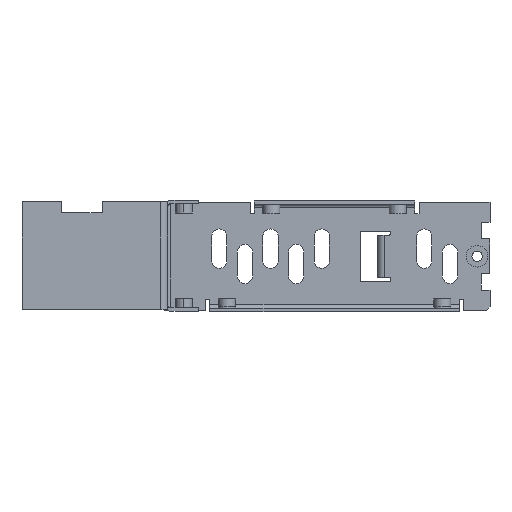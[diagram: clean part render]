
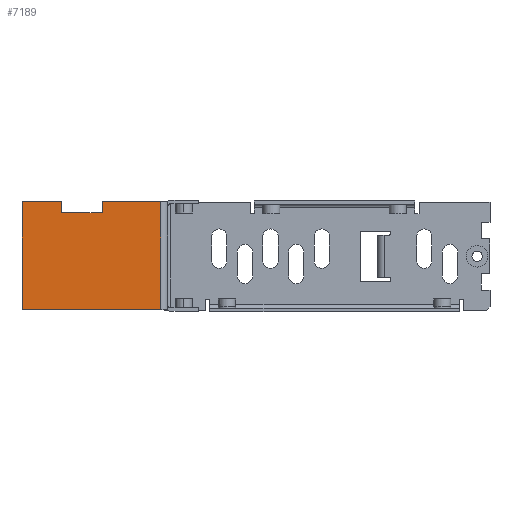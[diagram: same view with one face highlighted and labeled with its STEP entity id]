
A CAD part, top view. The second image highlights one B-rep face of the part: STEP entity #7189.
In plain terms, the highlighted planar face has unit normal (0, 0, 1).
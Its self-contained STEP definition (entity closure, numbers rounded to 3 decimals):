
#67=CARTESIAN_POINT('',(-97.9,1.7,107.));
#68=VERTEX_POINT('',#67);
#76=CARTESIAN_POINT('',(-138.5,1.7,107.));
#77=VERTEX_POINT('',#76);
#78=CARTESIAN_POINT('',(-97.9,1.7,107.));
#79=DIRECTION('',(-1.,0.,-0.));
#80=VECTOR('',#79,40.6);
#81=LINE('',#78,#80);
#82=EDGE_CURVE('',#68,#77,#81,.T.);
#1207=CARTESIAN_POINT('',(-115.,33.3,107.));
#1208=VERTEX_POINT('',#1207);
#1215=CARTESIAN_POINT('',(-97.9,33.3,107.));
#1216=VERTEX_POINT('',#1215);
#1217=CARTESIAN_POINT('',(-97.9,33.3,107.));
#1218=DIRECTION('',(-1.,0.,-0.));
#1219=VECTOR('',#1218,17.1);
#1220=LINE('',#1217,#1219);
#1221=EDGE_CURVE('',#1216,#1208,#1220,.T.);
#7119=CARTESIAN_POINT('',(-127.,33.3,107.));
#7120=VERTEX_POINT('',#7119);
#7128=CARTESIAN_POINT('',(-138.5,33.3,107.));
#7129=VERTEX_POINT('',#7128);
#7136=CARTESIAN_POINT('',(-127.,33.3,107.));
#7137=DIRECTION('',(-1.,0.,-0.));
#7138=VECTOR('',#7137,11.5);
#7139=LINE('',#7136,#7138);
#7140=EDGE_CURVE('',#7120,#7129,#7139,.T.);
#7145=CARTESIAN_POINT('',(-97.9,1.698,107.));
#7146=DIRECTION('',(0.,0.,-1.));
#7147=DIRECTION('',(-1.,0.,-0.));
#7148=AXIS2_PLACEMENT_3D('',#7145,#7146,#7147);
#7149=PLANE('',#7148);
#7150=ORIENTED_EDGE('',*,*,#1221,.T.);
#7151=CARTESIAN_POINT('',(-115.,30.,107.));
#7152=VERTEX_POINT('',#7151);
#7153=CARTESIAN_POINT('',(-115.,33.3,107.));
#7154=DIRECTION('',(0.,-1.,0.));
#7155=VECTOR('',#7154,3.3);
#7156=LINE('',#7153,#7155);
#7157=EDGE_CURVE('',#1208,#7152,#7156,.T.);
#7158=ORIENTED_EDGE('',*,*,#7157,.T.);
#7159=CARTESIAN_POINT('',(-127.,30.,107.));
#7160=VERTEX_POINT('',#7159);
#7161=CARTESIAN_POINT('',(-115.,30.,107.));
#7162=DIRECTION('',(-1.,-0.,-0.));
#7163=VECTOR('',#7162,12.);
#7164=LINE('',#7161,#7163);
#7165=EDGE_CURVE('',#7152,#7160,#7164,.T.);
#7166=ORIENTED_EDGE('',*,*,#7165,.T.);
#7167=CARTESIAN_POINT('',(-127.,30.,107.));
#7168=DIRECTION('',(-0.,1.,-0.));
#7169=VECTOR('',#7168,3.3);
#7170=LINE('',#7167,#7169);
#7171=EDGE_CURVE('',#7160,#7120,#7170,.T.);
#7172=ORIENTED_EDGE('',*,*,#7171,.T.);
#7173=ORIENTED_EDGE('',*,*,#7140,.T.);
#7174=CARTESIAN_POINT('',(-138.5,1.7,107.));
#7175=DIRECTION('',(0.,1.,0.));
#7176=VECTOR('',#7175,31.6);
#7177=LINE('',#7174,#7176);
#7178=EDGE_CURVE('',#77,#7129,#7177,.T.);
#7179=ORIENTED_EDGE('',*,*,#7178,.F.);
#7180=ORIENTED_EDGE('',*,*,#82,.F.);
#7181=CARTESIAN_POINT('',(-97.9,1.7,107.));
#7182=DIRECTION('',(0.,1.,0.));
#7183=VECTOR('',#7182,31.6);
#7184=LINE('',#7181,#7183);
#7185=EDGE_CURVE('',#68,#1216,#7184,.T.);
#7186=ORIENTED_EDGE('',*,*,#7185,.T.);
#7187=EDGE_LOOP('',(#7150,#7158,#7166,#7172,#7173,#7179,#7180,#7186));
#7188=FACE_BOUND('',#7187,.T.);
#7189=ADVANCED_FACE('',(#7188),#7149,.F.);
